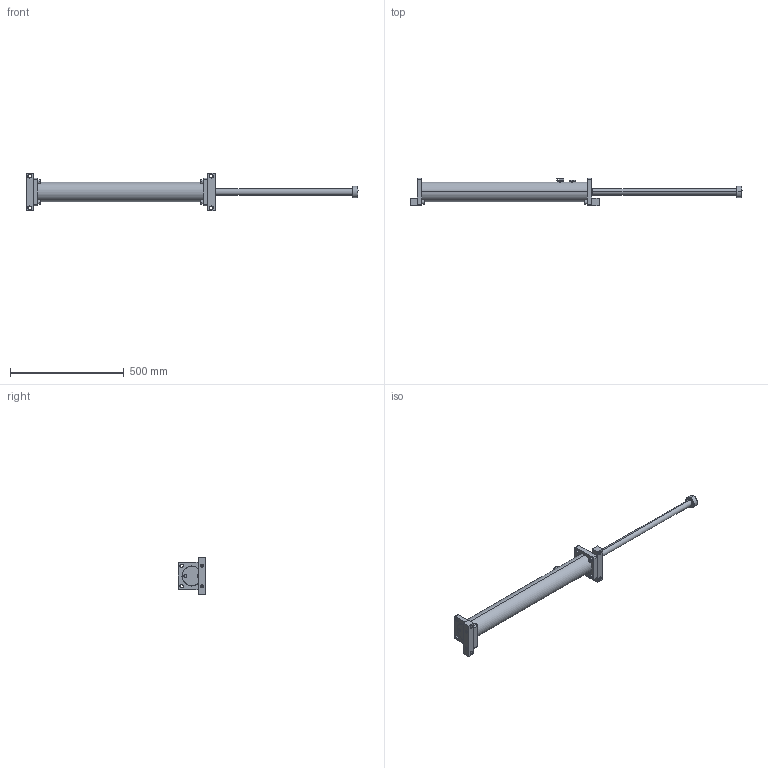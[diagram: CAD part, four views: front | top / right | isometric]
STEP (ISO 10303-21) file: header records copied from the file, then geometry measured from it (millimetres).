
FILE_DESCRIPTION (( 'STEP AP214' ), '1' );
FILE_NAME ('LDD1.5X24.STEP', '2019-01-16T05:47:17', ( 'user' ), ( 'Microsoft' ), 'SwSTEP 2.0', 'SolidWorks 2016', '' );
FILE_SCHEMA (( 'AUTOMOTIVE_DESIGN' ));
Length unit declared in the file: inch
Products named in the file (1): LDD1.5X24
Bounding box: 1459 x 121 x 165 mm (x, y, z)
Surface area: 412629.6 mm2 (no closed solid volume)
Topology: 0 solids, 25 shells, 269 faces, 732 edges, 490 vertices
Faces by surface type: plane 96, cylinder 83, cone 60, bspline 30
Entity records: 14407 total; most frequent: CARTESIAN_POINT 7662, DIRECTION 1419, ORIENTED_EDGE 1303, EDGE_CURVE 732, AXIS2_PLACEMENT_3D 554, VERTEX_POINT 490, EDGE_LOOP 327, CIRCLE 314
